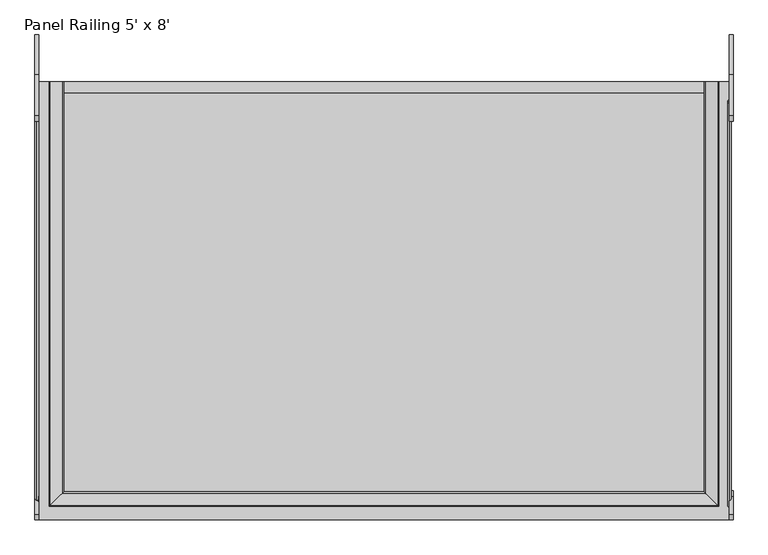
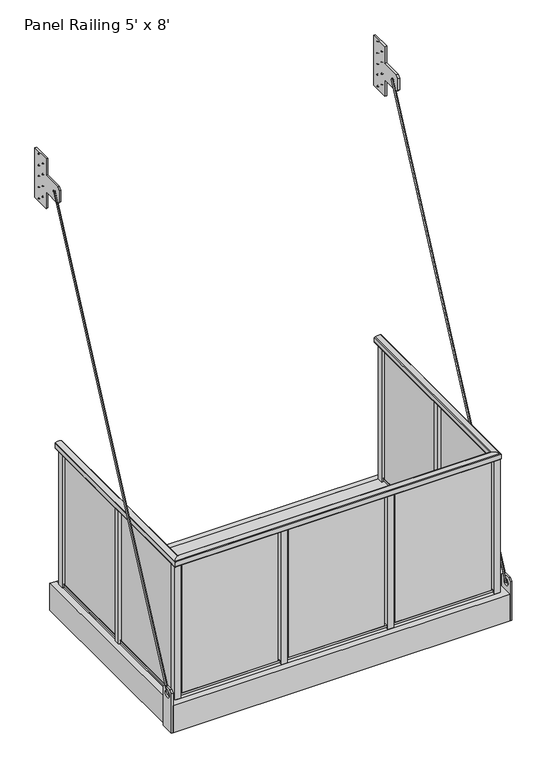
"""IFC4 building model written with IfcOpenShell, lengths in millimetres: proxy geometry, Specialty-Equipment_Endurable-Building-Products_Standard-Balcony : Panel Railing 5' x 8'."""

from ifc_helpers import new_model, si_unit, point, frame, frame_2d, origin, origin_2d, place, context, project, spatial, polyline, circle_curve, ellipse_curve, trimmed, segment, composite_curve, outline, extrude, source, transform, mapped, element, save
from ifc_brep_helpers import plane_surface, cylinder_surface, advanced_brep


def panel_railing_5_x_8_d80856ef(model_context):
    return source(origin(), model_context, "Body", "SolidModel", [
        extrude(outline(polyline([(25.1129964, 3238.5), (164.8129964, 3238.5), (164.8129964, 2857.5), (25.1129964, 2857.5), (25.1129964, 2984.5), (-120.9370036, 2984.5), (-139.9870036, 3003.55), (-139.9870036, 3092.45), (-120.9370036, 3111.5), (25.1129964, 3111.5), (25.1129964, 3238.5)]), holes=[composite_curve([segment(trimmed(circle_curve(frame_2d((-69.85, 3048.0)), 6.35), [point((-63.5, 3048.0))], [point((-76.2, 3048.0))], True, "CARTESIAN"), True, "CONTINUOUS"), segment(trimmed(circle_curve(frame_2d((-69.85, 3048.0)), 6.35), [point((-76.2, 3048.0))], [point((-63.5, 3048.0))], True, "CARTESIAN"), True, "CONTINUOUS")], self_intersect=False), composite_curve([segment(trimmed(circle_curve(frame_2d((120.3629964, 3048.0)), 2.38125), [point((122.7442464, 3048.0))], [point((117.9817464, 3048.0))], True, "CARTESIAN"), True, "CONTINUOUS"), segment(trimmed(circle_curve(frame_2d((120.3629964, 3048.0)), 2.38125), [point((117.9817464, 3048.0))], [point((122.7442464, 3048.0))], True, "CARTESIAN"), True, "CONTINUOUS")], self_intersect=False), composite_curve([segment(trimmed(circle_curve(frame_2d((120.3629964, 3219.45)), 2.38125), [point((122.7442464, 3219.45))], [point((117.9817464, 3219.45))], True, "CARTESIAN"), True, "CONTINUOUS"), segment(trimmed(circle_curve(frame_2d((120.3629964, 3219.45)), 2.38125), [point((117.9817464, 3219.45))], [point((122.7442464, 3219.45))], True, "CARTESIAN"), True, "CONTINUOUS")], self_intersect=False), composite_curve([segment(trimmed(circle_curve(frame_2d((120.3629964, 2876.55)), 2.38125), [point((122.7442464, 2876.55))], [point((117.9817464, 2876.55))], True, "CARTESIAN"), True, "CONTINUOUS"), segment(trimmed(circle_curve(frame_2d((120.3629964, 2876.55)), 2.38125), [point((117.9817464, 2876.55))], [point((122.7442464, 2876.55))], True, "CARTESIAN"), True, "CONTINUOUS")], self_intersect=False), composite_curve([segment(trimmed(circle_curve(frame_2d((120.3629964, 2965.45)), 2.38125), [point((122.7442464, 2965.45))], [point((117.9817464, 2965.45))], True, "CARTESIAN"), True, "CONTINUOUS"), segment(trimmed(circle_curve(frame_2d((120.3629964, 2965.45)), 2.38125), [point((117.9817464, 2965.45))], [point((122.7442464, 2965.45))], True, "CARTESIAN"), True, "CONTINUOUS")], self_intersect=False), composite_curve([segment(trimmed(circle_curve(frame_2d((120.3629964, 3130.55)), 2.38125), [point((122.7442464, 3130.55))], [point((117.9817464, 3130.55))], True, "CARTESIAN"), True, "CONTINUOUS"), segment(trimmed(circle_curve(frame_2d((120.3629964, 3130.55)), 2.38125), [point((117.9817464, 3130.55))], [point((122.7442464, 3130.55))], True, "CARTESIAN"), True, "CONTINUOUS")], self_intersect=False), composite_curve([segment(trimmed(circle_curve(frame_2d((69.5629964, 3092.45)), 2.38125), [point((71.9442464, 3092.45))], [point((67.1817464, 3092.45))], True, "CARTESIAN"), True, "CONTINUOUS"), segment(trimmed(circle_curve(frame_2d((69.5629964, 3092.45)), 2.38125), [point((67.1817464, 3092.45))], [point((71.9442464, 3092.45))], True, "CARTESIAN"), True, "CONTINUOUS")], self_intersect=False), composite_curve([segment(trimmed(circle_curve(frame_2d((69.5629964, 3175.0)), 2.38125), [point((71.9442464, 3175.0))], [point((67.1817464, 3175.0))], True, "CARTESIAN"), True, "CONTINUOUS"), segment(trimmed(circle_curve(frame_2d((69.5629964, 3175.0)), 2.38125), [point((67.1817464, 3175.0))], [point((71.9442464, 3175.0))], True, "CARTESIAN"), True, "CONTINUOUS")], self_intersect=False), composite_curve([segment(trimmed(circle_curve(frame_2d((69.5629964, 3003.55)), 2.38125), [point((71.9442464, 3003.55))], [point((67.1817464, 3003.55))], True, "CARTESIAN"), True, "CONTINUOUS"), segment(trimmed(circle_curve(frame_2d((69.5629964, 3003.55)), 2.38125), [point((67.1817464, 3003.55))], [point((71.9442464, 3003.55))], True, "CARTESIAN"), True, "CONTINUOUS")], self_intersect=False), composite_curve([segment(trimmed(circle_curve(frame_2d((69.5629964, 2921.0)), 2.38125), [point((71.9442464, 2921.0))], [point((67.1817464, 2921.0))], True, "CARTESIAN"), True, "CONTINUOUS"), segment(trimmed(circle_curve(frame_2d((69.5629964, 2921.0)), 2.38125), [point((67.1817464, 2921.0))], [point((71.9442464, 2921.0))], True, "CARTESIAN"), True, "CONTINUOUS")], self_intersect=False)]), frame((-1231.9, 0.0, 0.0), z_axis=(1.0, 0.0, 0.0), x_axis=(0.0, 1.0, 0.0)), (0.0, 0.0, 1.0), 12.7),
        extrude(outline(polyline([(25.1129964, 3238.5), (164.8129964, 3238.5), (164.8129964, 2857.5), (25.1129964, 2857.5), (25.1129964, 2984.5), (-120.9370036, 2984.5), (-139.9870036, 3003.55), (-139.9870036, 3092.45), (-120.9370036, 3111.5), (25.1129964, 3111.5), (25.1129964, 3238.5)]), holes=[composite_curve([segment(trimmed(circle_curve(frame_2d((-69.85, 3048.0)), 6.35), [point((-63.5, 3048.0))], [point((-76.2, 3048.0))], True, "CARTESIAN"), True, "CONTINUOUS"), segment(trimmed(circle_curve(frame_2d((-69.85, 3048.0)), 6.35), [point((-76.2, 3048.0))], [point((-63.5, 3048.0))], True, "CARTESIAN"), True, "CONTINUOUS")], self_intersect=False), composite_curve([segment(trimmed(circle_curve(frame_2d((120.3629964, 3048.0)), 2.38125), [point((122.7442464, 3048.0))], [point((117.9817464, 3048.0))], True, "CARTESIAN"), True, "CONTINUOUS"), segment(trimmed(circle_curve(frame_2d((120.3629964, 3048.0)), 2.38125), [point((117.9817464, 3048.0))], [point((122.7442464, 3048.0))], True, "CARTESIAN"), True, "CONTINUOUS")], self_intersect=False), composite_curve([segment(trimmed(circle_curve(frame_2d((120.3629964, 3219.45)), 2.38125), [point((122.7442464, 3219.45))], [point((117.9817464, 3219.45))], True, "CARTESIAN"), True, "CONTINUOUS"), segment(trimmed(circle_curve(frame_2d((120.3629964, 3219.45)), 2.38125), [point((117.9817464, 3219.45))], [point((122.7442464, 3219.45))], True, "CARTESIAN"), True, "CONTINUOUS")], self_intersect=False), composite_curve([segment(trimmed(circle_curve(frame_2d((120.3629964, 2876.55)), 2.38125), [point((122.7442464, 2876.55))], [point((117.9817464, 2876.55))], True, "CARTESIAN"), True, "CONTINUOUS"), segment(trimmed(circle_curve(frame_2d((120.3629964, 2876.55)), 2.38125), [point((117.9817464, 2876.55))], [point((122.7442464, 2876.55))], True, "CARTESIAN"), True, "CONTINUOUS")], self_intersect=False), composite_curve([segment(trimmed(circle_curve(frame_2d((120.3629964, 2965.45)), 2.38125), [point((122.7442464, 2965.45))], [point((117.9817464, 2965.45))], True, "CARTESIAN"), True, "CONTINUOUS"), segment(trimmed(circle_curve(frame_2d((120.3629964, 2965.45)), 2.38125), [point((117.9817464, 2965.45))], [point((122.7442464, 2965.45))], True, "CARTESIAN"), True, "CONTINUOUS")], self_intersect=False), composite_curve([segment(trimmed(circle_curve(frame_2d((120.3629964, 3130.55)), 2.38125), [point((122.7442464, 3130.55))], [point((117.9817464, 3130.55))], True, "CARTESIAN"), True, "CONTINUOUS"), segment(trimmed(circle_curve(frame_2d((120.3629964, 3130.55)), 2.38125), [point((117.9817464, 3130.55))], [point((122.7442464, 3130.55))], True, "CARTESIAN"), True, "CONTINUOUS")], self_intersect=False), composite_curve([segment(trimmed(circle_curve(frame_2d((69.5629964, 3092.45)), 2.38125), [point((71.9442464, 3092.45))], [point((67.1817464, 3092.45))], True, "CARTESIAN"), True, "CONTINUOUS"), segment(trimmed(circle_curve(frame_2d((69.5629964, 3092.45)), 2.38125), [point((67.1817464, 3092.45))], [point((71.9442464, 3092.45))], True, "CARTESIAN"), True, "CONTINUOUS")], self_intersect=False), composite_curve([segment(trimmed(circle_curve(frame_2d((69.5629964, 3175.0)), 2.38125), [point((71.9442464, 3175.0))], [point((67.1817464, 3175.0))], True, "CARTESIAN"), True, "CONTINUOUS"), segment(trimmed(circle_curve(frame_2d((69.5629964, 3175.0)), 2.38125), [point((67.1817464, 3175.0))], [point((71.9442464, 3175.0))], True, "CARTESIAN"), True, "CONTINUOUS")], self_intersect=False), composite_curve([segment(trimmed(circle_curve(frame_2d((69.5629964, 3003.55)), 2.38125), [point((71.9442464, 3003.55))], [point((67.1817464, 3003.55))], True, "CARTESIAN"), True, "CONTINUOUS"), segment(trimmed(circle_curve(frame_2d((69.5629964, 3003.55)), 2.38125), [point((67.1817464, 3003.55))], [point((71.9442464, 3003.55))], True, "CARTESIAN"), True, "CONTINUOUS")], self_intersect=False), composite_curve([segment(trimmed(circle_curve(frame_2d((69.5629964, 2921.0)), 2.38125), [point((71.9442464, 2921.0))], [point((67.1817464, 2921.0))], True, "CARTESIAN"), True, "CONTINUOUS"), segment(trimmed(circle_curve(frame_2d((69.5629964, 2921.0)), 2.38125), [point((67.1817464, 2921.0))], [point((71.9442464, 2921.0))], True, "CARTESIAN"), True, "CONTINUOUS")], self_intersect=False)]), frame((1219.2, 0.0, 0.0), z_axis=(1.0, 0.0, 0.0), x_axis=(0.0, 1.0, 0.0)), (0.0, 0.0, 1.0), 12.7),
        extrude(outline(polyline([(-1545.43125, -203.2), (-1545.43125, 96.7382813), (-1526.38125, 115.7882813), (-1462.88125, 115.7882813), (-1443.83125, 96.7382813), (-1443.83125, -203.2), (-1545.43125, -203.2)]), holes=[composite_curve([segment(trimmed(circle_curve(frame_2d((-1494.63125, 64.9882813)), 25.4), [point((-1520.03125, 64.9882813))], [point((-1469.23125, 64.9882813))], True, "CARTESIAN"), True, "CONTINUOUS"), segment(trimmed(circle_curve(frame_2d((-1494.63125, 64.9882813)), 25.4), [point((-1469.23125, 64.9882813))], [point((-1520.03125, 64.9882813))], True, "CARTESIAN"), True, "CONTINUOUS")], self_intersect=False)]), frame((-1231.9, 0.0, 0.0), z_axis=(1.0, 0.0, 0.0), x_axis=(0.0, 1.0, 0.0)), (0.0, 0.0, 1.0), 12.7),
        extrude(outline(polyline([(-1545.43125, -203.2), (-1545.43125, 96.7382812), (-1526.38125, 115.7882812), (-1462.88125, 115.7882812), (-1443.83125, 96.7382812), (-1443.83125, -203.2), (-1545.43125, -203.2)]), holes=[composite_curve([segment(trimmed(circle_curve(frame_2d((-1494.63125, 64.9882812)), 25.4), [point((-1520.03125, 64.9882812))], [point((-1469.23125, 64.9882812))], True, "CARTESIAN"), True, "CONTINUOUS"), segment(trimmed(circle_curve(frame_2d((-1494.63125, 64.9882812)), 25.4), [point((-1469.23125, 64.9882812))], [point((-1520.03125, 64.9882812))], True, "CARTESIAN"), True, "CONTINUOUS")], self_intersect=False)]), frame((1219.2, 0.0, 0.0), z_axis=(1.0, 0.0, 0.0), x_axis=(0.0, 1.0, 0.0)), (0.0, 0.0, 1.0), 12.7),
        extrude(outline(polyline([(542.925, -38.1), (542.925, -1494.63125), (504.825, -1494.63125), (504.825, -38.1), (542.925, -38.1)])), frame((0.0, 0.0, -203.2), z_axis=(0.0, 0.0, 1.0), x_axis=(1.0, 0.0, 0.0)), (0.0, 0.0, 1.0), 177.8),
        extrude(outline(polyline([(19.05, -38.1), (19.05, -1494.63125), (-19.05, -1494.63125), (-19.05, -38.1), (19.05, -38.1)])), frame((0.0, 0.0, -203.2), z_axis=(0.0, 0.0, 1.0), x_axis=(1.0, 0.0, 0.0)), (0.0, 0.0, 1.0), 177.8),
        extrude(outline(polyline([(-504.825, -38.1), (-504.825, -1494.63125), (-542.925, -1494.63125), (-542.925, -38.1), (-504.825, -38.1)])), frame((0.0, 0.0, -203.2), z_axis=(0.0, 0.0, 1.0), x_axis=(1.0, 0.0, 0.0)), (0.0, 0.0, 1.0), 177.8),
        extrude(outline(polyline([(1066.8, -38.1), (1066.8, -1494.63125), (1028.7, -1494.63125), (1028.7, -38.1), (1066.8, -38.1)])), frame((0.0, 0.0, -203.2), z_axis=(0.0, 0.0, 1.0), x_axis=(1.0, 0.0, 0.0)), (0.0, 0.0, 1.0), 177.8),
        extrude(outline(polyline([(1163.6375, -80.9625), (1163.6375, -744.934375), (1147.7625, -744.934375), (1147.7625, -80.9625), (1163.6375, -80.9625)])), frame((0.0, 0.0, 9.525), z_axis=(0.0, 0.0, 1.0), x_axis=(1.0, 0.0, 0.0)), (0.0, 0.0, 1.0), 15.875),
        extrude(outline(polyline([(1163.6375, -787.796875), (1163.6375, -1451.76875), (1147.7625, -1451.76875), (1147.7625, -787.796875), (1163.6375, -787.796875)])), frame((0.0, 0.0, 9.525), z_axis=(0.0, 0.0, 1.0), x_axis=(1.0, 0.0, 0.0)), (0.0, 0.0, 1.0), 15.875),
        extrude(outline(polyline([(-1163.6375, -80.9625), (-1147.7625, -80.9625), (-1147.7625, -744.934375), (-1163.6375, -744.934375), (-1163.6375, -80.9625)])), frame((0.0, 0.0, 9.525), z_axis=(0.0, 0.0, 1.0), x_axis=(1.0, 0.0, 0.0)), (0.0, 0.0, 1.0), 15.875),
        extrude(outline(polyline([(-1163.6375, -787.796875), (-1147.7625, -787.796875), (-1147.7625, -1451.76875), (-1163.6375, -1451.76875), (-1163.6375, -787.796875)])), frame((0.0, 0.0, 9.525), z_axis=(0.0, 0.0, 1.0), x_axis=(1.0, 0.0, 0.0)), (0.0, 0.0, 1.0), 15.875),
        extrude(outline(polyline([(-363.8020833, -1465.2625), (363.8020833, -1465.2625), (363.8020833, -1481.1375), (-363.8020833, -1481.1375), (-363.8020833, -1465.2625)])), frame((0.0, 0.0, 9.525), z_axis=(0.0, 0.0, 1.0), x_axis=(1.0, 0.0, 0.0)), (0.0, 0.0, 1.0), 15.875),
        extrude(outline(polyline([(-363.8020833, -1451.76875), (-363.8020833, -1494.63125), (-406.6645833, -1494.63125), (-406.6645833, -1451.76875), (-363.8020833, -1451.76875)])), frame((0.0, 0.0, -203.2), z_axis=(0.0, 0.0, 1.0), x_axis=(1.0, 0.0, 0.0)), (0.0, 0.0, 1.0), 1219.2),
        extrude(outline(polyline([(406.6645833, -1451.76875), (406.6645833, -1494.63125), (363.8020833, -1494.63125), (363.8020833, -1451.76875), (406.6645833, -1451.76875)])), frame((0.0, 0.0, -203.2), z_axis=(0.0, 0.0, 1.0), x_axis=(1.0, 0.0, 0.0)), (0.0, 0.0, 1.0), 1219.2),
        extrude(outline(polyline([(1134.26875, -38.1), (1177.13125, -38.1), (1177.13125, -80.9625), (1134.26875, -80.9625), (1134.26875, -38.1)])), frame((0.0, 0.0, -203.2), z_axis=(0.0, 0.0, 1.0), x_axis=(1.0, 0.0, 0.0)), (0.0, 0.0, 1.0), 1219.2),
        extrude(outline(polyline([(-1134.26875, -38.1), (-1134.26875, -80.9625), (-1177.13125, -80.9625), (-1177.13125, -38.1), (-1134.26875, -38.1)])), frame((0.0, 0.0, -203.2), z_axis=(0.0, 0.0, 1.0), x_axis=(1.0, 0.0, 0.0)), (0.0, 0.0, 1.0), 1219.2),
        extrude(outline(polyline([(1177.13125, -744.934375), (1177.13125, -787.796875), (1134.26875, -787.796875), (1134.26875, -744.934375), (1177.13125, -744.934375)])), frame((0.0, 0.0, -203.2), z_axis=(0.0, 0.0, 1.0), x_axis=(1.0, 0.0, 0.0)), (0.0, 0.0, 1.0), 1219.2),
        extrude(outline(polyline([(-1134.26875, -744.934375), (-1134.26875, -787.796875), (-1177.13125, -787.796875), (-1177.13125, -744.934375), (-1134.26875, -744.934375)])), frame((0.0, 0.0, -203.2), z_axis=(0.0, 0.0, 1.0), x_axis=(1.0, 0.0, 0.0)), (0.0, 0.0, 1.0), 1219.2),
        extrude(outline(polyline([(1168.4, 0.0), (1168.4, -38.1), (-1168.4, -38.1), (-1168.4, 0.0), (1168.4, 0.0)])), frame((0.0, 0.0, -203.2), z_axis=(0.0, 0.0, 1.0), x_axis=(1.0, 0.0, 0.0)), (0.0, 0.0, 1.0), 203.2),
        extrude(outline(polyline([(-1028.7, -38.1), (-1028.7, -1494.63125), (-1066.8, -1494.63125), (-1066.8, -38.1), (-1028.7, -38.1)])), frame((0.0, 0.0, -203.2), z_axis=(0.0, 0.0, 1.0), x_axis=(1.0, 0.0, 0.0)), (0.0, 0.0, 1.0), 177.8),
        extrude(outline(polyline([(-1134.26875, -1451.76875), (-1134.26875, -1494.63125), (-1177.13125, -1494.63125), (-1177.13125, -1451.76875), (-1134.26875, -1451.76875)])), frame((0.0, 0.0, -203.2), z_axis=(0.0, 0.0, 1.0), x_axis=(1.0, 0.0, 0.0)), (0.0, 0.0, 1.0), 1219.2),
        extrude(outline(polyline([(1177.13125, -1451.76875), (1177.13125, -1494.63125), (1134.26875, -1494.63125), (1134.26875, -1451.76875), (1177.13125, -1451.76875)])), frame((0.0, 0.0, -203.2), z_axis=(0.0, 0.0, 1.0), x_axis=(1.0, 0.0, 0.0)), (0.0, 0.0, 1.0), 1219.2),
        extrude(outline(polyline([(406.6645833, -1465.2625), (1134.26875, -1465.2625), (1134.26875, -1481.1375), (406.6645833, -1481.1375), (406.6645833, -1465.2625)])), frame((0.0, 0.0, 9.525), z_axis=(0.0, 0.0, 1.0), x_axis=(1.0, 0.0, 0.0)), (0.0, 0.0, 1.0), 15.875),
        extrude(outline(polyline([(-406.6645833, -1465.2625), (-406.6645833, -1481.1375), (-1134.26875, -1481.1375), (-1134.26875, -1465.2625), (-406.6645833, -1465.2625)])), frame((0.0, 0.0, 9.525), z_axis=(0.0, 0.0, 1.0), x_axis=(1.0, 0.0, 0.0)), (0.0, 0.0, 1.0), 15.875),
        extrude(outline(polyline([(-1168.4, -1494.63125), (-1168.4, -38.1), (1168.4, -38.1), (1168.4, -1494.63125), (-1168.4, -1494.63125)])), frame((0.0, 0.0, -25.4), z_axis=(0.0, 0.0, 1.0), x_axis=(1.0, 0.0, 0.0)), (0.0, 0.0, 1.0), 25.4),
        extrude(outline(composite_curve([segment(trimmed(circle_curve(frame_2d((-6.35, 0.0)), 6.35), [point((-6.35, 6.35))], [point((-6.35, -6.35))], False, "CARTESIAN"), True, "CONTINUOUS"), segment(trimmed(circle_curve(frame_2d((-6.35, 0.0)), 6.35), [point((-6.35, -6.35))], [point((-6.35, 6.35))], False, "CARTESIAN"), True, "CONTINUOUS")], self_intersect=False)), frame((-1219.2, -1494.63125, 64.9882812), z_axis=(0.0, 0.43099346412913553, 0.9023550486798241), x_axis=(1.0, 0.0, 0.0)), (0.0, 0.0, 1.0), 3305.8070912),
        extrude(outline(composite_curve([segment(trimmed(circle_curve(origin_2d(), 6.35), [point((0.0, 6.35))], [point((0.0, -6.35))], False, "CARTESIAN"), True, "CONTINUOUS"), segment(trimmed(circle_curve(origin_2d(), 6.35), [point((0.0, -6.35))], [point((0.0, 6.35))], False, "CARTESIAN"), True, "CONTINUOUS")], self_intersect=False)), frame((1219.2, -1494.63125, 64.9882812), z_axis=(0.0, 0.4309934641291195, 0.9023550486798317), x_axis=(-1.0, 0.0, 0.0)), (0.0, 0.0, 1.0), 3305.8070912),
        extrude(outline(polyline([(-1219.2, 0.0), (-1168.4, 0.0), (-1168.4, -1494.63125), (1168.4, -1494.63125), (1168.4, 0.0), (1219.2, 0.0), (1219.2, -1545.43125), (-1219.2, -1545.43125), (-1219.2, 0.0)])), frame((0.0, 0.0, -203.2), z_axis=(0.0, 0.0, 1.0), x_axis=(1.0, 0.0, 0.0)), (0.0, 0.0, 1.0), 203.2),
        extrude(outline(polyline([(-344.7520833, -1465.2625), (344.7520833, -1465.2625), (344.7520833, -1481.1375), (-344.7520833, -1481.1375), (-344.7520833, -1465.2625)])), frame((0.0, 0.0, 25.4), z_axis=(0.0, 0.0, 1.0), x_axis=(1.0, 0.0, 0.0)), (0.0, 0.0, 1.0), 990.6),
        extrude(outline(polyline([(-1162.05, -730.646875), (-1162.05, -95.25), (-1149.35, -95.25), (-1149.35, -730.646875), (-1162.05, -730.646875)])), frame((0.0, 0.0, 25.4), z_axis=(0.0, 0.0, 1.0), x_axis=(1.0, 0.0, 0.0)), (0.0, 0.0, 1.0), 990.6),
        extrude(outline(polyline([(1162.05, -730.646875), (1149.35, -730.646875), (1149.35, -95.25), (1162.05, -95.25), (1162.05, -730.646875)])), frame((0.0, 0.0, 25.4), z_axis=(0.0, 0.0, 1.0), x_axis=(1.0, 0.0, 0.0)), (0.0, 0.0, 1.0), 990.6),
        advanced_brep(
        [(1181.1, 0.0, 1056.4003287), (1181.1, 0.0, 1022.35), (1174.75, 0.0, 1016.0), (1136.65, 0.0, 1016.0), (1130.3, 0.0, 1022.35), (1130.3, 0.0, 1056.4003287), (1134.0669492, 0.0, 1062.2012207), (1177.3330508, 0.0, 1062.2012207), (-1181.1, 0.0, 1056.4003287), (-1177.3330508, 0.0, 1062.2012207), (-1134.0669492, 0.0, 1062.2012207), (-1130.3, 0.0, 1056.4003287), (-1130.3, 0.0, 1022.35), (-1136.65, 0.0, 1016.0), (-1174.75, 0.0, 1016.0), (-1181.1, 0.0, 1022.35), (1181.1, -1498.6, 1056.4003287), (1181.1, -1498.6, 1022.35), (1174.75, -1492.25, 1016.0), (-1174.75, -1492.25, 1016.0), (-1136.65, -1454.15, 1016.0), (1136.65, -1454.15, 1016.0), (1130.3, -1447.8, 1022.35), (1130.3, -1447.8, 1056.4003287), (1134.0669492, -1451.5669492, 1062.2012207), (1177.3330508, -1494.8330508, 1062.2012207), (-1181.1, -1498.6, 1056.4003287), (-1181.1, -1498.6, 1022.35), (-1130.3, -1447.8, 1022.35), (-1130.3, -1447.8, 1056.4003287), (-1134.0669492, -1451.5669492, 1062.2012207), (-1177.3330508, -1494.8330508, 1062.2012207)],
        [
            (0, 1),
            (1, 2, circle_curve(frame((1174.75, 0.0, 1022.35), z_axis=(0.0, 1.0, 0.0), x_axis=(1.0, 0.0, 0.0)), 6.35)),
            (2, 3),
            (3, 4, circle_curve(frame((1136.65, 0.0, 1022.35), z_axis=(0.0, 1.0, 0.0), x_axis=(1.0, 0.0, 0.0)), 6.35)),
            (4, 5),
            (5, 6, circle_curve(frame((1136.65, 0.0, 1056.4003287), z_axis=(0.0, 1.0, 0.0), x_axis=(1.0, 0.0, 0.0)), 6.35)),
            (6, 7, circle_curve(frame((1155.7, 0.0, 1013.61875), z_axis=(0.0, 1.0, 0.0), x_axis=(1.0, 0.0, 0.0)), 53.18125)),
            (7, 0, circle_curve(frame((1174.75, 0.0, 1056.4003287), z_axis=(0.0, 1.0, 0.0), x_axis=(1.0, 0.0, 0.0)), 6.35)),
            (8, 9, circle_curve(frame((-1174.75, 0.0, 1056.4003287), z_axis=(0.0, 1.0, 0.0), x_axis=(-1.0, 0.0, 0.0)), 6.35)),
            (9, 10, circle_curve(frame((-1155.7, 0.0, 1013.61875), z_axis=(0.0, 1.0, 0.0), x_axis=(-1.0, 0.0, 0.0)), 53.18125)),
            (10, 11, circle_curve(frame((-1136.65, 0.0, 1056.4003287), z_axis=(0.0, 1.0, 0.0), x_axis=(-1.0, 0.0, 0.0)), 6.35)),
            (11, 12),
            (12, 13, circle_curve(frame((-1136.65, 0.0, 1022.35), z_axis=(0.0, 1.0, 0.0), x_axis=(-1.0, 0.0, 0.0)), 6.35)),
            (13, 14),
            (14, 15, circle_curve(frame((-1174.75, 0.0, 1022.35), z_axis=(0.0, 1.0, 0.0), x_axis=(-1.0, 0.0, 0.0)), 6.35)),
            (15, 8),
            (0, 16),
            (16, 17),
            (17, 1),
            (17, 18, ellipse_curve(frame((1174.75, -1492.25, 1022.35), z_axis=(0.7071067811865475, 0.7071067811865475, 0.0), x_axis=(-0.7071067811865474, 0.7071067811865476, 0.0)), 8.9802561, 6.35)),
            (18, 2),
            (18, 19),
            (19, 14),
            (13, 20),
            (20, 21),
            (21, 3),
            (21, 22, ellipse_curve(frame((1136.65, -1454.15, 1022.35), z_axis=(0.7071067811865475, 0.7071067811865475, 0.0), x_axis=(-0.7071067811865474, 0.7071067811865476, 0.0)), 8.9802561, 6.35)),
            (22, 4),
            (22, 23),
            (23, 5),
            (23, 24, ellipse_curve(frame((1136.65, -1454.15, 1056.4003287), z_axis=(0.7071067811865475, 0.7071067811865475, 0.0), x_axis=(-0.7071067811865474, 0.7071067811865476, 0.0)), 8.9802561, 6.35)),
            (24, 6),
            (24, 25, ellipse_curve(frame((1155.7, -1473.2, 1013.61875), z_axis=(0.7071067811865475, 0.7071067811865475, 0.0), x_axis=(-0.7071067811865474, 0.7071067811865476, 0.0)), 75.209645, 53.18125)),
            (25, 7),
            (25, 16, ellipse_curve(frame((1174.75, -1492.25, 1056.4003287), z_axis=(0.7071067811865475, 0.7071067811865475, 0.0), x_axis=(-0.7071067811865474, 0.7071067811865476, 0.0)), 8.9802561, 6.35)),
            (16, 26),
            (26, 27),
            (27, 17),
            (27, 19, ellipse_curve(frame((-1174.75, -1492.25, 1022.35), z_axis=(0.7071067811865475, -0.7071067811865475, 0.0), x_axis=(0.7071067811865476, 0.7071067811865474, 0.0)), 8.9802561, 6.35)),
            (20, 28, ellipse_curve(frame((-1136.65, -1454.15, 1022.35), z_axis=(0.7071067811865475, -0.7071067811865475, 0.0), x_axis=(0.7071067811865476, 0.7071067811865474, 0.0)), 8.9802561, 6.35)),
            (28, 22),
            (28, 29),
            (29, 23),
            (29, 30, ellipse_curve(frame((-1136.65, -1454.15, 1056.4003287), z_axis=(0.7071067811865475, -0.7071067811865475, 0.0), x_axis=(0.7071067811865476, 0.7071067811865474, 0.0)), 8.9802561, 6.35)),
            (30, 24),
            (30, 31, ellipse_curve(frame((-1155.7, -1473.2, 1013.61875), z_axis=(0.7071067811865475, -0.7071067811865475, 0.0), x_axis=(0.7071067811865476, 0.7071067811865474, 0.0)), 75.209645, 53.18125)),
            (31, 25),
            (31, 26, ellipse_curve(frame((-1174.75, -1492.25, 1056.4003287), z_axis=(0.7071067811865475, -0.7071067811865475, 0.0), x_axis=(0.7071067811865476, 0.7071067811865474, 0.0)), 8.9802561, 6.35)),
            (26, 8),
            (15, 27),
            (12, 28),
            (11, 29),
            (10, 30),
            (9, 31),
        ],
        [
            plane_surface(frame((1155.7, 0.0, 0.0), z_axis=(0.0, 1.0, 0.0), x_axis=(0.0, 0.0, 1.0))),
            plane_surface(frame((-1155.7, 0.0, 0.0), z_axis=(0.0, 1.0, 0.0), x_axis=(0.0, 0.0, 1.0))),
            plane_surface(frame((1181.1, 0.0, 1056.4003287), z_axis=(1.0, 0.0, 0.0), x_axis=(0.0, -1.0, 0.0))),
            cylinder_surface(frame((1174.75, 0.0, 1022.35), z_axis=(0.0, 1.0, 0.0), x_axis=(1.0, 0.0, 0.0)), 6.35),
            plane_surface(frame((1174.75, 0.0, 1016.0), z_axis=(0.0, 0.0, -1.0), x_axis=(0.0, -1.0, 0.0))),
            cylinder_surface(frame((1136.65, 0.0, 1022.35), z_axis=(0.0, 1.0, 0.0), x_axis=(1.0, 0.0, 0.0)), 6.35),
            plane_surface(frame((1130.3, 0.0, 1022.35), z_axis=(-1.0, 0.0, 0.0), x_axis=(0.0, -1.0, 0.0))),
            cylinder_surface(frame((1136.65, 0.0, 1056.4003287), z_axis=(0.0, 1.0, 0.0), x_axis=(1.0, 0.0, 0.0)), 6.35),
            cylinder_surface(frame((1155.7, 0.0, 1013.61875), z_axis=(0.0, 1.0, 0.0), x_axis=(1.0, 0.0, 0.0)), 53.18125),
            cylinder_surface(frame((1174.75, 0.0, 1056.4003287), z_axis=(0.0, 1.0, 0.0), x_axis=(1.0, 0.0, 0.0)), 6.35),
            plane_surface(frame((1181.1, -1498.6, 1056.4003287), z_axis=(0.0, -1.0, 0.0), x_axis=(-1.0, 0.0, 0.0))),
            cylinder_surface(frame((1155.7, -1492.25, 1022.35), z_axis=(1.0, 0.0, 0.0), x_axis=(0.0, -1.0, 0.0)), 6.35),
            cylinder_surface(frame((1155.7, -1454.15, 1022.35), z_axis=(1.0, 0.0, 0.0), x_axis=(0.0, -1.0, 0.0)), 6.35),
            plane_surface(frame((1130.3, -1447.8, 1022.35), z_axis=(0.0, 1.0, 0.0), x_axis=(-1.0, 0.0, 0.0))),
            cylinder_surface(frame((1155.7, -1454.15, 1056.4003287), z_axis=(1.0, 0.0, 0.0), x_axis=(0.0, -1.0, 0.0)), 6.35),
            cylinder_surface(frame((1155.7, -1473.2, 1013.61875), z_axis=(1.0, 0.0, 0.0), x_axis=(0.0, -1.0, 0.0)), 53.18125),
            cylinder_surface(frame((1155.7, -1492.25, 1056.4003287), z_axis=(1.0, 0.0, 0.0), x_axis=(0.0, -1.0, 0.0)), 6.35),
            plane_surface(frame((-1181.1, -1498.6, 1056.4003287), z_axis=(-1.0, 0.0, 0.0), x_axis=(0.0, 1.0, 0.0))),
            cylinder_surface(frame((-1174.75, -1473.2, 1022.35), z_axis=(0.0, -1.0, 0.0), x_axis=(-1.0, 0.0, 0.0)), 6.35),
            cylinder_surface(frame((-1136.65, -1473.2, 1022.35), z_axis=(0.0, -1.0, 0.0), x_axis=(-1.0, 0.0, 0.0)), 6.35),
            plane_surface(frame((-1130.3, -1447.8, 1022.35), z_axis=(1.0, 0.0, 0.0), x_axis=(0.0, 1.0, 0.0))),
            cylinder_surface(frame((-1136.65, -1473.2, 1056.4003287), z_axis=(0.0, -1.0, 0.0), x_axis=(-1.0, 0.0, 0.0)), 6.35),
            cylinder_surface(frame((-1155.7, -1473.2, 1013.61875), z_axis=(0.0, -1.0, 0.0), x_axis=(-1.0, 0.0, 0.0)), 53.18125),
            cylinder_surface(frame((-1174.75, -1473.2, 1056.4003287), z_axis=(0.0, -1.0, 0.0), x_axis=(-1.0, 0.0, 0.0)), 6.35),
        ],
        [
            (0, [[1, 2, 3, 4, 5, 6, 7, 8]]),
            (1, [[9, 10, 11, 12, 13, 14, 15, 16]]),
            (2, [[-1, 17, 18, 19]]),
            (3, [[-2, -19, 20, 21]]),
            (4, [[-3, -21, 22, 23, -14, 24, 25, 26]]),
            (5, [[-4, -26, 27, 28]]),
            (6, [[-5, -28, 29, 30]]),
            (7, [[-6, -30, 31, 32]]),
            (8, [[-7, -32, 33, 34]]),
            (9, [[-8, -34, 35, -17]]),
            (10, [[-18, 36, 37, 38]]),
            (11, [[-20, -38, 39, -22]]),
            (12, [[-27, -25, 40, 41]]),
            (13, [[-29, -41, 42, 43]]),
            (14, [[-31, -43, 44, 45]]),
            (15, [[-33, -45, 46, 47]]),
            (16, [[-35, -47, 48, -36]]),
            (17, [[-37, 49, -16, 50]]),
            (18, [[-39, -50, -15, -23]]),
            (19, [[-40, -24, -13, 51]]),
            (20, [[-42, -51, -12, 52]]),
            (21, [[-44, -52, -11, 53]]),
            (22, [[-46, -53, -10, 54]]),
            (23, [[-48, -54, -9, -49]]),
        ],
    ),
        extrude(outline(polyline([(425.7145833, -1481.1375), (425.7145833, -1465.2625), (1119.98125, -1465.2625), (1119.98125, -1481.1375), (425.7145833, -1481.1375)])), frame((0.0, 0.0, 25.4), z_axis=(0.0, 0.0, 1.0), x_axis=(1.0, 0.0, 0.0)), (0.0, 0.0, 1.0), 990.6),
        extrude(outline(polyline([(-1119.98125, -1465.2625), (-425.7145833, -1465.2625), (-425.7145833, -1481.1375), (-1119.98125, -1481.1375), (-1119.98125, -1465.2625)])), frame((0.0, 0.0, 25.4), z_axis=(0.0, 0.0, 1.0), x_axis=(1.0, 0.0, 0.0)), (0.0, 0.0, 1.0), 990.6),
        extrude(outline(polyline([(1162.05, -802.084375), (1162.05, -1437.48125), (1149.35, -1437.48125), (1149.35, -802.084375), (1162.05, -802.084375)])), frame((0.0, 0.0, 25.4), z_axis=(0.0, 0.0, 1.0), x_axis=(1.0, 0.0, 0.0)), (0.0, 0.0, 1.0), 990.6),
        extrude(outline(polyline([(-1149.35, -802.084375), (-1149.35, -1437.48125), (-1162.05, -1437.48125), (-1162.05, -802.084375), (-1149.35, -802.084375)])), frame((0.0, 0.0, 25.4), z_axis=(0.0, 0.0, 1.0), x_axis=(1.0, 0.0, 0.0)), (0.0, 0.0, 1.0), 990.6),
    ])


if __name__ == "__main__":
    model = new_model("IFC4")
    model_context = context("Model", 3, world=origin())
    ifc_project = project(units=[si_unit("LENGTHUNIT", "METRE", prefix="MILLI")], contexts=[model_context])
    site = spatial("IfcSite", under=ifc_project)
    building = spatial("IfcBuilding", under=site)
    placement = place(None, origin())
    panel_railing_5_x_8_shape = panel_railing_5_x_8_d80856ef(model_context)
    element("IfcBuildingElementProxy", 1, Name="Specialty-Equipment_Endurable-Building-Products_Standard-Balcony : Panel Railing 5' x 8'", ObjectType="Specialty-Equipment_Endurable-Building-Products_Standard-Balcony : Panel Railing 5' x 8'", at=placement, inside=building, context=model_context, shape_type="MappedRepresentation", body=[
        mapped(panel_railing_5_x_8_shape, transform((0.0, 0.0, 0.0), x_axis=(1.0, 0.0, 0.0), y_axis=(0.0, 1.0, 0.0), z_axis=(0.0, 0.0, 1.0))),
    ])
    save(model, "model.ifc")
